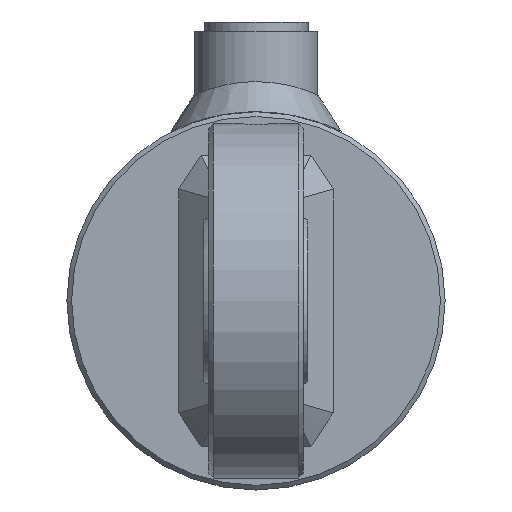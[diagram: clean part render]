
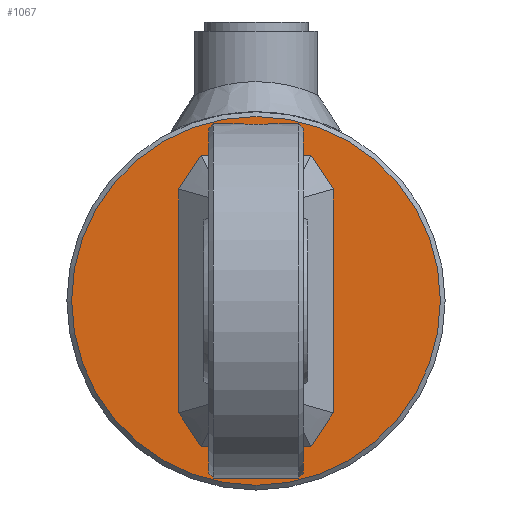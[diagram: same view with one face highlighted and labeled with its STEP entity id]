
A CAD part, left-side view. The second image highlights one B-rep face of the part: STEP entity #1067.
In plain terms, the highlighted planar face has unit normal (-1, 0, 0).
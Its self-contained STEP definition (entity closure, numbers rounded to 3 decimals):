
#1067 = ADVANCED_FACE( '', ( #2045 ), #2046, .T. );
#2045 = FACE_OUTER_BOUND( '', #5661, .T. );
#2046 = PLANE( '', #5662 );
#5661 = EDGE_LOOP( '', ( #10347 ) );
#5662 = AXIS2_PLACEMENT_3D( '', #10348, #10349, #10350 );
#10347 = ORIENTED_EDGE( '', *, *, #11813, .T. );
#10348 = CARTESIAN_POINT( '', ( -12., 0., 0. ) );
#10349 = DIRECTION( '', ( -1., 0., 0. ) );
#10350 = DIRECTION( '', ( 0., -1., 0. ) );
#11813 = EDGE_CURVE( '', #12973, #12973, #12974, .T. );
#12973 = VERTEX_POINT( '', #15846 );
#12974 = CIRCLE( '', #15847, 39. );
#15846 = CARTESIAN_POINT( '', ( -12., -39., 0. ) );
#15847 = AXIS2_PLACEMENT_3D( '', #17346, #17347, #17348 );
#17346 = CARTESIAN_POINT( '', ( -12., 0., 0. ) );
#17347 = DIRECTION( '', ( -1., 0., 0. ) );
#17348 = DIRECTION( '', ( 0., -1., 0. ) );
